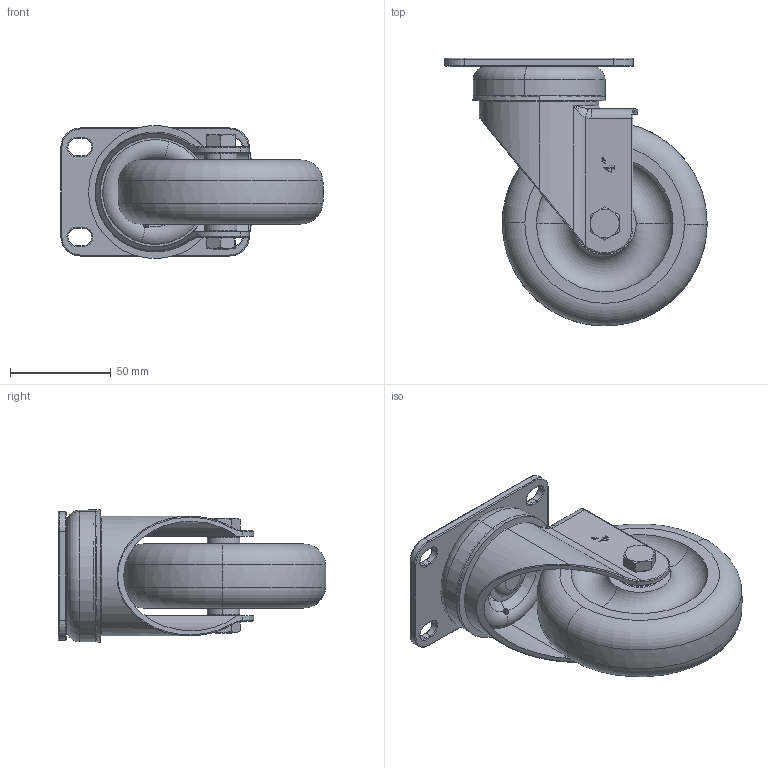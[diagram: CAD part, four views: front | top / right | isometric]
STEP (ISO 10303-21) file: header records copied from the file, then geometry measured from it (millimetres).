
FILE_DESCRIPTION (( 'STEP AP203' ), '1' );
FILE_NAME ('4渡拸价陬勀砃謫.STEP', '2023-02-23T09:29:06', ( 'amidn' ), ( '' ), 'SwSTEP 2.0', 'SolidWorks 2018', '' );
FILE_SCHEMA (( 'CONFIG_CONTROL_DESIGN' ));
Length unit declared in the file: millimetre
Products named in the file (1): 4渡拸价陬勀砃謫
Bounding box: 130.07 x 132.73 x 66 mm (x, y, z)
Volume: 305523.7 mm3; surface area: 109023.8 mm2
Topology: 34 solids, 34 shells, 657 faces, 1591 edges, 953 vertices
Faces by surface type: plane 208, cylinder 139, torus 123, sphere 80, bspline 59, cone 48
Entity records: 21520 total; most frequent: CARTESIAN_POINT 6778, DIRECTION 3167, ORIENTED_EDGE 2938, EDGE_CURVE 1469, AXIS2_PLACEMENT_3D 1280, VERTEX_POINT 913, EDGE_LOOP 732, CIRCLE 681
